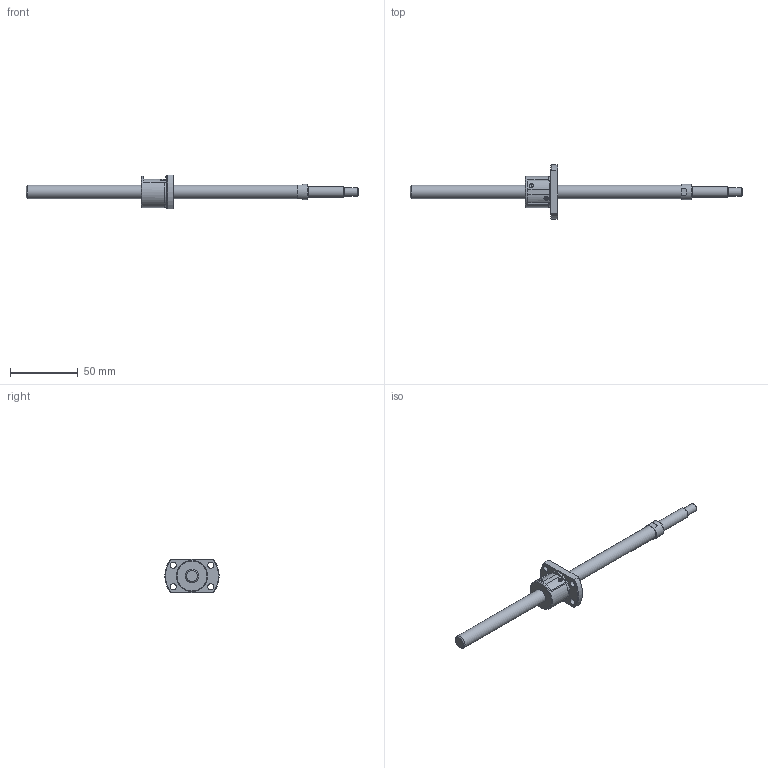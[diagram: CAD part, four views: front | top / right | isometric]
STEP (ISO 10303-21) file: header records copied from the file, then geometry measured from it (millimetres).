
FILE_DESCRIPTION(/* description */ ('STEP AP214'),/* implementation_level */ '2;1');
FILE_NAME(/* name */ 'SRT1002-196R245C7A0X(85Processing)',/* time_stamp */ '2026-08-05T22:54:01+02:00',/* author */ ('License CC BY-ND 4.0'),/* organization */ ('CADENAS'),/* preprocessor_version */ 'ST-DEVELOPER v20',/* originating_system */ 'PARTsolutions',/* authorisation */ ' ');
FILE_SCHEMA (('AUTOMOTIVE_DESIGN {1 0 10303 214 3 1 1}'));
Length unit declared in the file: millimetre
Products named in the file (3): SRT1002-196R245C7A0X(85Processing); SRT1002-196R270ACt7Processing57Shaft; SRT1002Nut
Assembly tree (2 placements, depth 2):
  SRT1002-196R245C7A0X(85Processing)
    SRT1002-196R270ACt7Processing57Shaft
    SRT1002Nut
Bounding box: 245 x 40 x 25 mm (x, y, z)
Volume: 27948.4 mm3; surface area: 12201 mm2
Topology: 2 solids, 2 shells, 62 faces, 154 edges, 101 vertices
Faces by surface type: plane 31, cylinder 17, cone 13, torus 1
Full cylindrical faces by diameter (mm): 1.4 x2, 4.5 x4, 6 x1, 8 x1, 10 x2, 11.5 x1, 22.5 x1, 23 x1
Entity records: 1751 total; most frequent: CARTESIAN_POINT 339, DIRECTION 288, ORIENTED_EDGE 236, AXIS2_PLACEMENT_3D 123, EDGE_CURVE 118, EDGE_LOOP 100, FACE_BOUND 100, VERTEX_POINT 88
